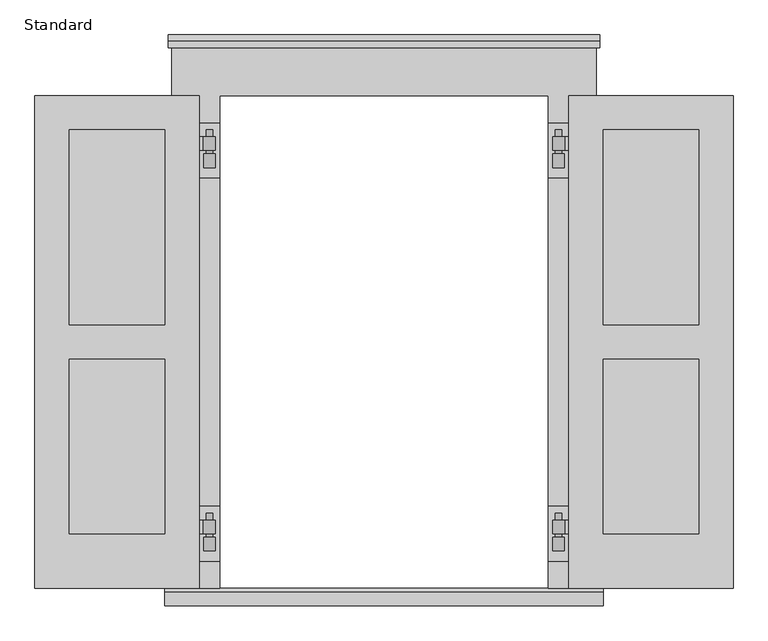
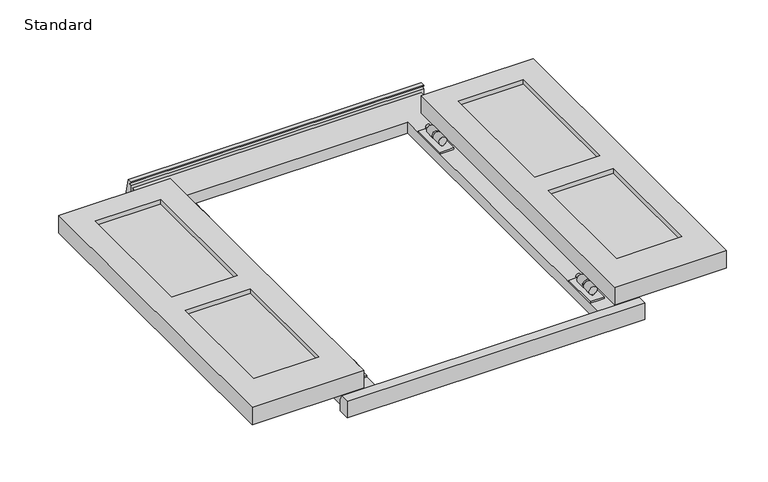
"""IFC4 building model written with IfcOpenShell, lengths in millimetres: proxy geometry, Shutters-Trim-Window-Exterior-Flat-Decorative_Drip_Cap-Cape_Cod : Standard."""

import ifcopenshell
import ifcopenshell.guid

model = None  # the IFC model being written
_history = None  # IfcOwnerHistory: only IFC2X3 demands one
_inside = {}  # id of a spatial element -> (the spatial element, [elements in it])
_under = {}  # id of a project, library or spatial element -> (it, [spatial elements below it])
_declared = {}  # id of a project -> (the project, [libraries it declares])
_typed = {}  # id of a type object -> (the type object, [elements of that type])
_made_of = {}  # id of a material, layer set ... -> (it, [elements and type objects made of it])


def new_model(schema):
    """Start an empty IFC model of exactly this schema.

    Asked for "IFC4X3", IfcOpenShell would pick the latest addendum, in which some entities
    have other attributes; the version numbers below select the first issue.
    IFC2X3 requires an IfcOwnerHistory on every rooted entity: one is made here for all.
    """
    global model, _history
    if schema == "IFC4X3":
        model = ifcopenshell.file(schema_version=(4, 3, 0, 0))
    else:
        model = ifcopenshell.file(schema=schema)
    _inside.clear()
    _under.clear()
    _declared.clear()
    _typed.clear()
    _made_of.clear()
    _history = None
    if model.schema == "IFC2X3":
        org = make("IfcOrganization", Name="unknown")
        user = make(
            "IfcPersonAndOrganization",
            ThePerson=make("IfcPerson", FamilyName="unknown"),
            TheOrganization=org,
        )
        app = make(
            "IfcApplication",
            ApplicationDeveloper=org,
            Version="unknown",
            ApplicationFullName="unknown",
            ApplicationIdentifier="unknown",
        )
        _history = make(
            "IfcOwnerHistory",
            OwningUser=user,
            OwningApplication=app,
            ChangeAction="ADDED",
            CreationDate=0,
        )
    return model


def make(cls, **values):
    """One entity of the class cls with the attributes given. An attribute that is None is left unset."""
    return model.create_entity(
        cls, **{name: value for name, value in values.items() if value is not None}
    )


def rooted(cls, **values):
    """An entity with a GlobalId (a new one), such as an element, a storey or a relation."""
    return make(cls, GlobalId=ifcopenshell.guid.new(), OwnerHistory=_history, **values)


def si_unit(unit_type, name, prefix=None):
    """IfcSIUnit, for example si_unit("LENGTHUNIT", "METRE", prefix="MILLI")."""
    return make("IfcSIUnit", UnitType=unit_type, Prefix=prefix, Name=name)


def assignment(units):
    """IfcUnitAssignment: the units of a project."""
    return None if units is None else make("IfcUnitAssignment", Units=units)


def point(xyz):
    """IfcCartesianPoint."""
    return None if xyz is None else make("IfcCartesianPoint", Coordinates=xyz)


def direction(xyz):
    """IfcDirection."""
    return None if xyz is None else make("IfcDirection", DirectionRatios=xyz)


def frame(location, z_axis=None, x_axis=None):
    """IfcAxis2Placement3D, a coordinate frame: its origin and axes. An axis left out is left unset."""
    return make(
        "IfcAxis2Placement3D",
        Location=point(location),
        Axis=direction(z_axis),
        RefDirection=direction(x_axis),
    )


def frame_2d(location, x_axis=None):
    """IfcAxis2Placement2D, a coordinate frame in the plane: its origin and x axis."""
    return make(
        "IfcAxis2Placement2D", Location=point(location), RefDirection=direction(x_axis)
    )


def origin():
    """The frame at (0, 0, 0) with its axes left unset."""
    return frame((0.0, 0.0, 0.0))


def origin_with_axes():
    """The frame at (0, 0, 0) with the z axis (0, 0, 1) and the x axis (1, 0, 0) written out."""
    return frame((0.0, 0.0, 0.0), z_axis=(0.0, 0.0, 1.0), x_axis=(1.0, 0.0, 0.0))


def place(relative_to, where):
    """IfcLocalPlacement: puts the frame where relative to a parent placement (None: the world)."""
    return make(
        "IfcLocalPlacement", PlacementRelTo=relative_to, RelativePlacement=where
    )


def context(
    kind, dimensions, precision=None, world=None, true_north=None, identifier=None
):
    """IfcGeometricRepresentationContext, for example the 3D "Model" context."""
    return make(
        "IfcGeometricRepresentationContext",
        ContextIdentifier=identifier,
        ContextType=kind,
        CoordinateSpaceDimension=dimensions,
        Precision=precision,
        WorldCoordinateSystem=world,
        TrueNorth=true_north,
    )


def project(units=None, contexts=None):
    """IfcProject with its units and contexts."""
    return rooted(
        "IfcProject",
        Name="project",
        RepresentationContexts=contexts,
        UnitsInContext=assignment(units),
    )


def spatial(cls, under=None, at=None, **own):
    """A site, building, storey or space (cls), placed at a placement, below another one or the project."""
    s = rooted(cls, ObjectPlacement=at, **own)
    if under is not None:
        _under.setdefault(under.id(), (under, []))[1].append(s)
    return s


def polyline(points):
    """IfcPolyline through the points."""
    return make("IfcPolyline", Points=[point(p) for p in points])


def circle_curve(where, radius):
    """IfcCircle in the frame where."""
    return make("IfcCircle", Position=where, Radius=radius)


def trimmed(basis, trim1, trim2, sense, master):
    """IfcTrimmedCurve: the piece of a basis curve between two trims."""
    return make(
        "IfcTrimmedCurve",
        BasisCurve=basis,
        Trim1=trim1,
        Trim2=trim2,
        SenseAgreement=sense,
        MasterRepresentation=master,
    )


def segment(curve, same_sense, transition):
    """IfcCompositeCurveSegment."""
    return make(
        "IfcCompositeCurveSegment",
        Transition=transition,
        SameSense=same_sense,
        ParentCurve=curve,
    )


def composite_curve(segments, self_intersect=None):
    """IfcCompositeCurve: segments joined end to end."""
    return make("IfcCompositeCurve", Segments=segments, SelfIntersect=self_intersect)


def outline(outer, holes=None, kind="AREA"):
    """IfcArbitraryClosedProfileDef: a profile drawn as a closed curve; with holes, ...WithVoids."""
    if holes is None:
        return make("IfcArbitraryClosedProfileDef", ProfileType=kind, OuterCurve=outer)
    return make(
        "IfcArbitraryProfileDefWithVoids",
        ProfileType=kind,
        OuterCurve=outer,
        InnerCurves=holes,
    )


def extrude(swept, where, along, depth):
    """IfcExtrudedAreaSolid: the profile swept, set in the frame where, extruded along a direction by depth."""
    return make(
        "IfcExtrudedAreaSolid",
        SweptArea=swept,
        Position=where,
        ExtrudedDirection=direction(along),
        Depth=depth,
    )


def shape(context_of_items, identifier, shape_type, items):
    """IfcShapeRepresentation: the items that make up one representation, for example the "Body"."""
    return make(
        "IfcShapeRepresentation",
        ContextOfItems=context_of_items,
        RepresentationIdentifier=identifier,
        RepresentationType=shape_type,
        Items=items,
    )


def source(mapping_origin, context_of_items, identifier, shape_type, items):
    """IfcRepresentationMap: a shape defined once, which mapped items show again and again."""
    return make(
        "IfcRepresentationMap",
        MappingOrigin=mapping_origin,
        MappedRepresentation=shape(context_of_items, identifier, shape_type, items),
    )


def transform(
    local_origin,
    x_axis=None,
    y_axis=None,
    z_axis=None,
    scale=None,
    scale2=None,
    scale3=None,
    uniform=True,
):
    """IfcCartesianTransformationOperator3D, or its non-uniform kind. x_axis, y_axis, z_axis: its Axis1, 2, 3."""
    if uniform:
        return make(
            "IfcCartesianTransformationOperator3D",
            Axis1=direction(x_axis),
            Axis2=direction(y_axis),
            LocalOrigin=point(local_origin),
            Scale=scale,
            Axis3=direction(z_axis),
        )
    return make(
        "IfcCartesianTransformationOperator3DnonUniform",
        Axis1=direction(x_axis),
        Axis2=direction(y_axis),
        LocalOrigin=point(local_origin),
        Scale=scale,
        Axis3=direction(z_axis),
        Scale2=scale2,
        Scale3=scale3,
    )


def mapped(mapping_source, mapping_target):
    """IfcMappedItem: shows the shape of a source again, moved by a transform."""
    return make(
        "IfcMappedItem", MappingSource=mapping_source, MappingTarget=mapping_target
    )


def made_of(thing, what):
    """Note that an element or type object is made of a material, layer set ...; save() writes the relation."""
    if what is not None:
        _made_of.setdefault(what.id(), (what, []))[1].append(thing)
    return thing


def element(
    cls,
    number,
    at=None,
    inside=None,
    cuts=None,
    type_object=None,
    material=None,
    context=None,
    identifier="Body",
    shape_type=None,
    held_by="IfcProductDefinitionShape",
    body=None,
    shapes=None,
    **own,
):
    """One element of the class cls, such as IfcWall. Its Tag is "e" and its number.

    at: its placement. inside: the storey or other place that contains it. cuts: it is an
    opening in that element (IfcRelVoidsElement). A single representation is given by context,
    identifier, shape_type and body (its items); several are given by shapes. held_by: the class
    of the entity that holds the representations. save() writes the other relations.
    """
    e = rooted(cls, Tag="e%d" % number, ObjectPlacement=at, **own)
    if body is not None:
        shapes = [shape(context, identifier, shape_type, body)]
    if shapes is not None:
        e.Representation = make(held_by, Representations=shapes)
    if inside is not None:
        _inside.setdefault(inside.id(), (inside, []))[1].append(e)
    if cuts is not None:
        rooted(
            "IfcRelVoidsElement", RelatingBuildingElement=cuts, RelatedOpeningElement=e
        )
    if type_object is not None:
        _typed.setdefault(type_object.id(), (type_object, []))[1].append(e)
    return made_of(e, material)


def aggregate(whole, parts):
    """IfcRelAggregates: a whole, such as a stair, and the parts it consists of."""
    return rooted("IfcRelAggregates", RelatingObject=whole, RelatedObjects=parts)


def save(model, path):
    """Write the relations noted so far, then the file.

    IfcRelAggregates (storeys below a building ...), IfcRelContainedInSpatialStructure (elements
    in a storey), IfcRelDefinesByType, IfcRelAssociatesMaterial and IfcRelDeclares: one each for
    every whole, place, type object, material and project.
    """
    for whole, parts in _under.values():
        aggregate(whole, parts)
    for where, things in _inside.values():
        rooted(
            "IfcRelContainedInSpatialStructure",
            RelatedElements=things,
            RelatingStructure=where,
        )
    for kind, things in _typed.values():
        rooted("IfcRelDefinesByType", RelatedObjects=things, RelatingType=kind)
    for what, things in _made_of.values():
        rooted("IfcRelAssociatesMaterial", RelatedObjects=things, RelatingMaterial=what)
    for by, libraries in _declared.values():
        rooted("IfcRelDeclares", RelatingContext=by, RelatedDefinitions=libraries)
    model.write(path)


def plane_surface(at):
    """IfcPlane: the flat surface through the origin of the frame at, square to its z axis."""
    return make("IfcPlane", Position=at)


def cylinder_surface(at, radius):
    """IfcCylindricalSurface: all points at the distance radius from the z axis of the frame at."""
    return make("IfcCylindricalSurface", Position=at, Radius=radius)


def revolved_surface(curve, axis_point, axis_direction):
    """IfcSurfaceOfRevolution: the curve turned about the line through axis_point along axis_direction."""
    return make(
        "IfcSurfaceOfRevolution",
        SweptCurve=make("IfcArbitraryOpenProfileDef", ProfileType="CURVE", Curve=curve),
        AxisPosition=make("IfcAxis1Placement", Location=point(axis_point), Axis=direction(axis_direction)),
    )


def advanced_brep(points, edges, surfaces, faces):
    """IfcAdvancedBrep: a solid bounded by faces that lie on surfaces and meet in shared edges.

    An edge is (start, end): straight between two places in points (the first is 0);
    or (start, end, curve); or (start, end, curve, False) where it runs against its curve.
    A face is (place in surfaces, loops), or (place, loops, False) where it looks against
    its surface's normal. A loop lists edges by number (the first is 1), with a minus sign
    where the edge is run from its end to its start. The first loop is the outer one.
    """
    corners = [point(p) for p in points]
    vertices = [make("IfcVertexPoint", VertexGeometry=c) for c in corners]
    made = []
    for start, end, *more in edges:
        made.append(
            make(
                "IfcEdgeCurve",
                EdgeStart=vertices[start],
                EdgeEnd=vertices[end],
                EdgeGeometry=more[0] if more else make("IfcPolyline", Points=[corners[start], corners[end]]),
                SameSense=more[1] if len(more) > 1 else True,
            )
        )
    hull = []
    for where, loops, *sense in faces:
        bounds = []
        for j, loop in enumerate(loops):
            ring = [make("IfcOrientedEdge", EdgeElement=made[abs(k) - 1], Orientation=k > 0) for k in loop]
            bounds.append(
                make(
                    "IfcFaceOuterBound" if j == 0 else "IfcFaceBound",
                    Bound=make("IfcEdgeLoop", EdgeList=ring),
                    Orientation=True,
                )
            )
        hull.append(make("IfcAdvancedFace", Bounds=bounds, FaceSurface=surfaces[where], SameSense=sense[0] if sense else True))
    return make("IfcAdvancedBrep", Outer=make("IfcClosedShell", CfsFaces=hull))


def standard_f57f7093(model_context):
    return source(origin(), model_context, "Body", "SolidModel", [
        extrude(outline(polyline([(-647.7, 0.0), (-342.9, 0.0), (-342.9, -914.4), (-647.7, -914.4), (-647.7, 0.0)]), holes=[polyline([(-584.2, -63.5), (-584.2, -425.45), (-406.4, -425.45), (-406.4, -63.5), (-584.2, -63.5)]), polyline([(-406.4, -488.95), (-584.2, -488.95), (-584.2, -812.8), (-406.4, -812.8), (-406.4, -488.95)])]), frame((0.0, 0.0, 44.45), z_axis=(0.0, 0.0, 1.0), x_axis=(1.0, 0.0, 0.0)), (0.0, 0.0, 1.0), 50.8),
        extrude(outline(polyline([(-584.2, -63.5), (-406.4, -63.5), (-406.4, -425.45), (-584.2, -425.45), (-584.2, -63.5)])), frame((0.0, 0.0, 57.15), z_axis=(0.0, 0.0, 1.0), x_axis=(1.0, 0.0, 0.0)), (0.0, 0.0, 1.0), 25.4),
        extrude(outline(polyline([(-406.4, -488.95), (-406.4, -812.8), (-584.2, -812.8), (-584.2, -488.95), (-406.4, -488.95)])), frame((0.0, 0.0, 57.15), z_axis=(0.0, 0.0, 1.0), x_axis=(1.0, 0.0, 0.0)), (0.0, 0.0, 1.0), 25.4),
        extrude(outline(polyline([(647.7, 0.0), (647.7, -914.4), (342.9, -914.4), (342.9, 0.0), (647.7, 0.0)]), holes=[polyline([(584.2, -63.5), (406.4, -63.5), (406.4, -425.45), (584.2, -425.45), (584.2, -63.5)]), polyline([(406.4, -488.95), (406.4, -812.8), (584.2, -812.8), (584.2, -488.95), (406.4, -488.95)])]), frame((0.0, 0.0, 44.45), z_axis=(0.0, 0.0, 1.0), x_axis=(1.0, 0.0, 0.0)), (0.0, 0.0, 1.0), 50.8),
        extrude(outline(polyline([(584.2, -63.5), (584.2, -425.45), (406.4, -425.45), (406.4, -63.5), (584.2, -63.5)])), frame((0.0, 0.0, 57.15), z_axis=(0.0, 0.0, 1.0), x_axis=(1.0, 0.0, 0.0)), (0.0, 0.0, 1.0), 25.4),
        extrude(outline(polyline([(406.4, -488.95), (584.2, -488.95), (584.2, -812.8), (406.4, -812.8), (406.4, -488.95)])), frame((0.0, 0.0, 57.15), z_axis=(0.0, 0.0, 1.0), x_axis=(1.0, 0.0, 0.0)), (0.0, 0.0, 1.0), 25.4),
        extrude(outline(polyline([(-342.9, -762.0), (-304.8, -762.0), (-304.8, -863.6), (-342.9, -863.6), (-342.9, -762.0)])), frame((0.0, 0.0, 31.75), z_axis=(0.0, 0.0, 1.0), x_axis=(1.0, 0.0, 0.0)), (0.0, 0.0, 1.0), 4.7625),
        advanced_brep(
        [(-388.9375, -774.7, 44.45), (-363.474, -774.7, 44.45), (-363.474, -774.7, 39.6875), (-388.9375, -774.7, 39.6875), (-388.9375, -825.5, 39.6875), (-363.474, -825.5, 39.6875), (-363.474, -825.5, 44.45), (-388.9375, -825.5, 44.45), (-363.474, -787.4, 39.6875), (-323.85, -787.4, 39.6875), (-323.85, -812.8, 39.6875), (-363.474, -812.8, 39.6875), (-363.474, -812.8, 44.45), (-323.85, -812.8, 44.45), (-323.85, -787.4, 44.45), (-363.474, -787.4, 44.45), (-330.2, -812.8, 50.8), (-330.2, -787.4, 50.8), (-330.2, -812.8, 46.0375), (-330.2, -787.4, 46.0375), (-334.9625, -812.8, 46.0375), (-334.9625, -787.4, 46.0375), (-334.9625, -812.8, 50.8), (-334.9625, -787.4, 50.8)],
        [
            (0, 1),
            (1, 2),
            (2, 3),
            (3, 0),
            (4, 5),
            (5, 6),
            (6, 7),
            (7, 4),
            (2, 8),
            (8, 9),
            (9, 10),
            (10, 11),
            (11, 5),
            (4, 3),
            (7, 0),
            (6, 12),
            (12, 13),
            (13, 14),
            (14, 15),
            (15, 1),
            (16, 17),
            (17, 14, circle_curve(frame((-323.85, -787.4, 50.8), z_axis=(0.0, 1.0, 0.0), x_axis=(1.0, 0.0, 0.0)), 6.35)),
            (13, 16, circle_curve(frame((-323.85, -812.8, 50.8), z_axis=(0.0, -1.0, 0.0), x_axis=(1.0, 0.0, 0.0)), 6.35)),
            (18, 19),
            (19, 17),
            (16, 18),
            (20, 21),
            (21, 19),
            (18, 20),
            (22, 23),
            (23, 21),
            (20, 22),
            (9, 23, circle_curve(frame((-323.85, -787.4, 50.8), z_axis=(0.0, -1.0, 0.0), x_axis=(1.0, 0.0, 0.0)), 11.1125)),
            (22, 10, circle_curve(frame((-323.85, -812.8, 50.8), z_axis=(0.0, 1.0, 0.0), x_axis=(1.0, 0.0, 0.0)), 11.1125)),
            (12, 11),
            (8, 15),
        ],
        [
            plane_surface(frame((-323.85, -774.7, 50.8), z_axis=(0.0, 1.0, 0.0), x_axis=(0.0, 0.0, 1.0))),
            plane_surface(frame((-323.85, -825.5, 50.8), z_axis=(0.0, -1.0, 0.0), x_axis=(0.0, 0.0, 1.0))),
            plane_surface(frame((-388.9375, -774.7, 39.6875), z_axis=(0.0, 0.0, -1.0), x_axis=(0.0, -1.0, 0.0))),
            plane_surface(frame((-388.9375, -774.7, 44.45), z_axis=(-1.0, 0.0, 0.0), x_axis=(0.0, -1.0, 0.0))),
            plane_surface(frame((-323.85, -774.7, 44.45), z_axis=(0.0, 0.0, 1.0), x_axis=(0.0, -1.0, 0.0))),
            revolved_surface(polyline([(-317.5, -812.8, 50.8), (-317.5, -787.4, 50.8)]), (-323.85, -774.7, 50.8), (0.0, -1.0, 0.0)),
            plane_surface(frame((-330.2, -774.7, 46.0375), z_axis=(1.0, 0.0, 0.0), x_axis=(0.0, -1.0, 0.0))),
            plane_surface(frame((-334.9625, -774.7, 46.0375), z_axis=(0.0, 0.0, -1.0), x_axis=(0.0, -1.0, 0.0))),
            plane_surface(frame((-334.9625, -774.7, 50.8), z_axis=(-1.0, 0.0, 0.0), x_axis=(0.0, -1.0, 0.0))),
            cylinder_surface(frame((-323.85, -774.7, 50.8), z_axis=(0.0, 1.0, 0.0), x_axis=(1.0, 0.0, 0.0)), 11.1125),
            plane_surface(frame((-323.85, -812.8, 50.8), z_axis=(0.0, -1.0, 0.0), x_axis=(0.0, 0.0, 1.0))),
            plane_surface(frame((-363.474, -812.8, 44.45), z_axis=(1.0, 0.0, 0.0), x_axis=(0.0, -1.0, 0.0))),
            plane_surface(frame((-323.85, -787.4, 50.8), z_axis=(0.0, 1.0, 0.0), x_axis=(0.0, 0.0, 1.0))),
            plane_surface(frame((-363.474, -774.7, 44.45), z_axis=(1.0, 0.0, 0.0), x_axis=(0.0, -1.0, 0.0))),
        ],
        [
            (0, [[1, 2, 3, 4]]),
            (1, [[5, 6, 7, 8]]),
            (2, [[-3, 9, 10, 11, 12, 13, -5, 14]]),
            (3, [[-14, -8, 15, -4]]),
            (4, [[-7, 16, 17, 18, 19, 20, -1, -15]]),
            (5, [[21, 22, -18, 23]]),
            (6, [[24, 25, -21, 26]]),
            (7, [[27, 28, -24, 29]]),
            (8, [[30, 31, -27, 32]]),
            (9, [[-11, 33, -30, 34]]),
            (10, [[-12, -34, -32, -29, -26, -23, -17, 35]]),
            (11, [[-16, -6, -13, -35]]),
            (12, [[-19, -22, -25, -28, -31, -33, -10, 36]]),
            (13, [[-9, -2, -20, -36]]),
        ],
    ),
        advanced_brep(
        [(-326.23125, -819.15, 36.5125), (-326.23125, -819.15, 39.945632), (-321.46875, -819.15, 39.945632), (-321.46875, -819.15, 36.5125), (-317.5, -819.15, 50.8), (-330.2, -819.15, 50.8), (-326.23125, -844.55, 36.5125), (-321.46875, -844.55, 36.5125), (-321.46875, -844.55, 39.945632), (-326.23125, -844.55, 39.945632), (-330.2, -774.7, 50.8), (-317.5, -774.7, 50.8)],
        [
            (0, 1),
            (1, 2, circle_curve(frame((-323.85, -819.15, 50.8), z_axis=(0.0, 1.0, 0.0), x_axis=(1.0, 0.0, 0.0)), 11.1125)),
            (2, 3),
            (3, 0),
            (4, 5, circle_curve(frame((-323.85, -819.15, 50.8), z_axis=(0.0, -1.0, 0.0), x_axis=(1.0, 0.0, 0.0)), 6.35)),
            (5, 4, circle_curve(frame((-323.85, -819.15, 50.8), z_axis=(0.0, -1.0, 0.0), x_axis=(1.0, 0.0, 0.0)), 6.35)),
            (6, 7),
            (7, 8),
            (8, 9, circle_curve(frame((-323.85, -844.55, 50.8), z_axis=(0.0, -1.0, 0.0), x_axis=(1.0, 0.0, 0.0)), 11.1125)),
            (9, 6),
            (0, 6),
            (9, 1),
            (3, 7),
            (2, 8),
            (10, 11, circle_curve(frame((-323.85, -774.7, 50.8), z_axis=(0.0, 1.0, 0.0), x_axis=(1.0, 0.0, 0.0)), 6.35)),
            (11, 10, circle_curve(frame((-323.85, -774.7, 50.8), z_axis=(0.0, 1.0, 0.0), x_axis=(1.0, 0.0, 0.0)), 6.35)),
            (11, 4),
            (5, 10),
        ],
        [
            plane_surface(frame((-321.46875, -819.15, 36.5125), z_axis=(0.0, 1.0, 0.0), x_axis=(1.0, 0.0, 6.23955382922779e-12))),
            plane_surface(frame((-321.46875, -844.55, 36.5125), z_axis=(0.0, -1.0, 0.0), x_axis=(-1.0, 0.0, -6.23955382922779e-12))),
            plane_surface(frame((-326.23125, -819.15, 39.945632), z_axis=(-1.0, 0.0, 0.0), x_axis=(0.0, -1.0, 0.0))),
            plane_surface(frame((-326.23125, -819.15, 36.5125), z_axis=(6.23955382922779e-12, 0.0, -1.0), x_axis=(0.0, -1.0, 0.0))),
            plane_surface(frame((-321.46875, -819.15, 36.5125), z_axis=(1.0, 0.0, 0.0), x_axis=(0.0, -1.0, 0.0))),
            cylinder_surface(frame((-323.85, -844.55, 50.8), z_axis=(0.0, 1.0, 0.0), x_axis=(1.0, 0.0, 0.0)), 11.1125),
            plane_surface(frame((-317.5, -774.7, 50.8), z_axis=(0.0, 1.0, 0.0), x_axis=(0.0, 0.0, 1.0))),
            cylinder_surface(frame((-323.85, -844.55, 50.8), z_axis=(0.0, 1.0, 0.0), x_axis=(1.0, 0.0, 0.0)), 6.35),
        ],
        [
            (0, [[1, 2, 3, 4], [5, 6]]),
            (1, [[7, 8, 9, 10]]),
            (2, [[11, -10, 12, -1]]),
            (3, [[13, -7, -11, -4]]),
            (4, [[14, -8, -13, -3]]),
            (5, [[-12, -9, -14, -2]]),
            (6, [[15, 16]]),
            (7, [[17, -6, 18, -16]]),
            (7, [[-18, -5, -17, -15]]),
        ],
    ),
        extrude(outline(polyline([(342.9, -762.0), (342.9, -863.6), (304.8, -863.6), (304.8, -762.0), (342.9, -762.0)])), frame((0.0, 0.0, 31.75), z_axis=(0.0, 0.0, 1.0), x_axis=(1.0, 0.0, 0.0)), (0.0, 0.0, 1.0), 4.7625),
        advanced_brep(
        [(388.9375, -774.7, 44.45), (388.9375, -774.7, 39.6875), (363.474, -774.7, 39.6875), (363.474, -774.7, 44.45), (388.9375, -825.5, 39.6875), (388.9375, -825.5, 44.45), (363.474, -825.5, 44.45), (363.474, -825.5, 39.6875), (363.474, -812.8, 39.6875), (323.85, -812.8, 39.6875), (323.85, -787.4, 39.6875), (363.474, -787.4, 39.6875), (363.474, -787.4, 44.45), (323.85, -787.4, 44.45), (323.85, -812.8, 44.45), (363.474, -812.8, 44.45), (330.2, -812.8, 50.8), (330.2, -787.4, 50.8), (330.2, -812.8, 46.0375), (330.2, -787.4, 46.0375), (334.9625, -812.8, 46.0375), (334.9625, -787.4, 46.0375), (334.9625, -812.8, 50.8), (334.9625, -787.4, 50.8)],
        [
            (0, 1),
            (1, 2),
            (2, 3),
            (3, 0),
            (4, 5),
            (5, 6),
            (6, 7),
            (7, 4),
            (1, 4),
            (7, 8),
            (8, 9),
            (9, 10),
            (10, 11),
            (11, 2),
            (0, 5),
            (3, 12),
            (12, 13),
            (13, 14),
            (14, 15),
            (15, 6),
            (16, 14, circle_curve(frame((323.85, -812.8, 50.8), z_axis=(0.0, -1.0, 0.0), x_axis=(-1.0, 0.0, 0.0)), 6.35)),
            (13, 17, circle_curve(frame((323.85, -787.4, 50.8), z_axis=(0.0, 1.0, 0.0), x_axis=(-1.0, 0.0, 0.0)), 6.35)),
            (17, 16),
            (18, 16),
            (17, 19),
            (19, 18),
            (20, 18),
            (19, 21),
            (21, 20),
            (22, 20),
            (21, 23),
            (23, 22),
            (9, 22, circle_curve(frame((323.85, -812.8, 50.8), z_axis=(0.0, 1.0, 0.0), x_axis=(-1.0, 0.0, 0.0)), 11.1125)),
            (23, 10, circle_curve(frame((323.85, -787.4, 50.8), z_axis=(0.0, -1.0, 0.0), x_axis=(-1.0, 0.0, 0.0)), 11.1125)),
            (8, 15),
            (12, 11),
        ],
        [
            plane_surface(frame((323.85, -774.7, 50.8), z_axis=(0.0, 1.0, 0.0), x_axis=(0.0, 0.0, 1.0))),
            plane_surface(frame((323.85, -825.5, 50.8), z_axis=(0.0, -1.0, 0.0), x_axis=(0.0, 0.0, 1.0))),
            plane_surface(frame((388.9375, -774.7, 39.6875), z_axis=(0.0, 0.0, -1.0), x_axis=(0.0, -1.0, 0.0))),
            plane_surface(frame((388.9375, -774.7, 44.45), z_axis=(1.0, 0.0, 0.0), x_axis=(0.0, -1.0, 0.0))),
            plane_surface(frame((323.85, -774.7, 44.45), z_axis=(0.0, 0.0, 1.0), x_axis=(0.0, -1.0, 0.0))),
            revolved_surface(polyline([(317.5, -812.8, 50.8), (317.5, -787.4, 50.8)]), (323.85, -774.7, 50.8), (0.0, -1.0, 0.0)),
            plane_surface(frame((330.2, -774.7, 46.0375), z_axis=(-1.0, 0.0, 0.0), x_axis=(0.0, -1.0, 0.0))),
            plane_surface(frame((334.9625, -774.7, 46.0375), z_axis=(0.0, 0.0, -1.0), x_axis=(0.0, -1.0, 0.0))),
            plane_surface(frame((334.9625, -774.7, 50.8), z_axis=(1.0, 0.0, 0.0), x_axis=(0.0, -1.0, 0.0))),
            cylinder_surface(frame((323.85, -774.7, 50.8), z_axis=(0.0, 1.0, 0.0), x_axis=(-1.0, 0.0, 0.0)), 11.1125),
            plane_surface(frame((323.85, -812.8, 50.8), z_axis=(0.0, -1.0, 0.0), x_axis=(0.0, 0.0, 1.0))),
            plane_surface(frame((363.474, -812.8, 44.45), z_axis=(-1.0, 0.0, 0.0), x_axis=(0.0, -1.0, 0.0))),
            plane_surface(frame((323.85, -787.4, 50.8), z_axis=(0.0, 1.0, 0.0), x_axis=(0.0, 0.0, 1.0))),
            plane_surface(frame((363.474, -774.7, 44.45), z_axis=(-1.0, 0.0, 0.0), x_axis=(0.0, -1.0, 0.0))),
        ],
        [
            (0, [[1, 2, 3, 4]]),
            (1, [[5, 6, 7, 8]]),
            (2, [[9, -8, 10, 11, 12, 13, 14, -2]]),
            (3, [[-1, 15, -5, -9]]),
            (4, [[-15, -4, 16, 17, 18, 19, 20, -6]]),
            (5, [[21, -18, 22, 23]]),
            (6, [[24, -23, 25, 26]]),
            (7, [[27, -26, 28, 29]]),
            (8, [[30, -29, 31, 32]]),
            (9, [[33, -32, 34, -12]]),
            (10, [[35, -19, -21, -24, -27, -30, -33, -11]]),
            (11, [[-35, -10, -7, -20]]),
            (12, [[36, -13, -34, -31, -28, -25, -22, -17]]),
            (13, [[-36, -16, -3, -14]]),
        ],
    ),
        advanced_brep(
        [(326.23125, -819.15, 36.5125), (321.46875, -819.15, 36.5125), (321.46875, -819.15, 39.945632), (326.23125, -819.15, 39.945632), (317.5, -819.15, 50.8), (330.2, -819.15, 50.8), (326.23125, -844.55, 36.5125), (326.23125, -844.55, 39.945632), (321.46875, -844.55, 39.945632), (321.46875, -844.55, 36.5125), (330.2, -774.7, 50.8), (317.5, -774.7, 50.8)],
        [
            (0, 1),
            (1, 2),
            (2, 3, circle_curve(frame((323.85, -819.15, 50.8), z_axis=(0.0, 1.0, 0.0), x_axis=(-1.0, 0.0, 0.0)), 11.1125)),
            (3, 0),
            (4, 5, circle_curve(frame((323.85, -819.15, 50.8), z_axis=(0.0, -1.0, 0.0), x_axis=(-1.0, 0.0, 0.0)), 6.35)),
            (5, 4, circle_curve(frame((323.85, -819.15, 50.8), z_axis=(0.0, -1.0, 0.0), x_axis=(-1.0, 0.0, 0.0)), 6.35)),
            (6, 7),
            (7, 8, circle_curve(frame((323.85, -844.55, 50.8), z_axis=(0.0, -1.0, 0.0), x_axis=(-1.0, 0.0, 0.0)), 11.1125)),
            (8, 9),
            (9, 6),
            (3, 7),
            (6, 0),
            (9, 1),
            (8, 2),
            (10, 11, circle_curve(frame((323.85, -774.7, 50.8), z_axis=(0.0, 1.0, 0.0), x_axis=(-1.0, 0.0, 0.0)), 6.35)),
            (11, 10, circle_curve(frame((323.85, -774.7, 50.8), z_axis=(0.0, 1.0, 0.0), x_axis=(-1.0, 0.0, 0.0)), 6.35)),
            (10, 5),
            (4, 11),
        ],
        [
            plane_surface(frame((321.46875, -819.15, 36.5125), z_axis=(0.0, 1.0, 0.0), x_axis=(-1.0, 0.0, 6.246014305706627e-12))),
            plane_surface(frame((321.46875, -844.55, 36.5125), z_axis=(0.0, -1.0, 0.0), x_axis=(1.0, 0.0, -6.246014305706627e-12))),
            plane_surface(frame((326.23125, -819.15, 39.945632), z_axis=(1.0, 0.0, 0.0), x_axis=(0.0, -1.0, 0.0))),
            plane_surface(frame((326.23125, -819.15, 36.5125), z_axis=(-6.246014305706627e-12, 0.0, -1.0), x_axis=(0.0, -1.0, 0.0))),
            plane_surface(frame((321.46875, -819.15, 36.5125), z_axis=(-1.0, 0.0, 0.0), x_axis=(0.0, -1.0, 0.0))),
            cylinder_surface(frame((323.85, -844.55, 50.8), z_axis=(0.0, 1.0, 0.0), x_axis=(-1.0, 0.0, 0.0)), 11.1125),
            plane_surface(frame((317.5, -774.7, 50.8), z_axis=(0.0, 1.0, 0.0), x_axis=(0.0, 0.0, 1.0))),
            cylinder_surface(frame((323.85, -844.55, 50.8), z_axis=(0.0, 1.0, 0.0), x_axis=(-1.0, 0.0, 0.0)), 6.35),
        ],
        [
            (0, [[1, 2, 3, 4], [5, 6]]),
            (1, [[7, 8, 9, 10]]),
            (2, [[-4, 11, -7, 12]]),
            (3, [[-1, -12, -10, 13]]),
            (4, [[-2, -13, -9, 14]]),
            (5, [[-3, -14, -8, -11]]),
            (6, [[15, 16]]),
            (7, [[-15, 17, -5, 18]]),
            (7, [[-16, -18, -6, -17]]),
        ],
    ),
        extrude(outline(polyline([(342.9, -50.8), (342.9, -152.4), (304.8, -152.4), (304.8, -50.8), (342.9, -50.8)])), frame((0.0, 0.0, 31.75), z_axis=(0.0, 0.0, 1.0), x_axis=(1.0, 0.0, 0.0)), (0.0, 0.0, 1.0), 4.7625),
        advanced_brep(
        [(388.9375, -63.5, 44.45), (388.9375, -63.5, 39.6875), (363.474, -63.5, 39.6875), (363.474, -63.5, 44.45), (388.9375, -114.3, 39.6875), (388.9375, -114.3, 44.45), (363.474, -114.3, 44.45), (363.474, -114.3, 39.6875), (363.474, -101.6, 39.6875), (323.85, -101.6, 39.6875), (323.85, -76.2, 39.6875), (363.474, -76.2, 39.6875), (363.474, -76.2, 44.45), (323.85, -76.2, 44.45), (323.85, -101.6, 44.45), (363.474, -101.6, 44.45), (330.2, -101.6, 50.8), (330.2, -76.2, 50.8), (330.2, -101.6, 46.0375), (330.2, -76.2, 46.0375), (334.9625, -101.6, 46.0375), (334.9625, -76.2, 46.0375), (334.9625, -101.6, 50.8), (334.9625, -76.2, 50.8)],
        [
            (0, 1),
            (1, 2),
            (2, 3),
            (3, 0),
            (4, 5),
            (5, 6),
            (6, 7),
            (7, 4),
            (1, 4),
            (7, 8),
            (8, 9),
            (9, 10),
            (10, 11),
            (11, 2),
            (0, 5),
            (3, 12),
            (12, 13),
            (13, 14),
            (14, 15),
            (15, 6),
            (16, 14, circle_curve(frame((323.85, -101.6, 50.8), z_axis=(0.0, -1.0, 0.0), x_axis=(-1.0, 0.0, 0.0)), 6.35)),
            (13, 17, circle_curve(frame((323.85, -76.2, 50.8), z_axis=(0.0, 1.0, 0.0), x_axis=(-1.0, 0.0, 0.0)), 6.35)),
            (17, 16),
            (18, 16),
            (17, 19),
            (19, 18),
            (20, 18),
            (19, 21),
            (21, 20),
            (22, 20),
            (21, 23),
            (23, 22),
            (9, 22, circle_curve(frame((323.85, -101.6, 50.8), z_axis=(0.0, 1.0, 0.0), x_axis=(-1.0, 0.0, 0.0)), 11.1125)),
            (23, 10, circle_curve(frame((323.85, -76.2, 50.8), z_axis=(0.0, -1.0, 0.0), x_axis=(-1.0, 0.0, 0.0)), 11.1125)),
            (8, 15),
            (12, 11),
        ],
        [
            plane_surface(frame((323.85, -63.5, 50.8), z_axis=(0.0, 1.0, 0.0), x_axis=(0.0, 0.0, 1.0))),
            plane_surface(frame((323.85, -114.3, 50.8), z_axis=(0.0, -1.0, 0.0), x_axis=(0.0, 0.0, 1.0))),
            plane_surface(frame((388.9375, -63.5, 39.6875), z_axis=(0.0, 0.0, -1.0), x_axis=(0.0, -1.0, 0.0))),
            plane_surface(frame((388.9375, -63.5, 44.45), z_axis=(1.0, 0.0, 0.0), x_axis=(0.0, -1.0, 0.0))),
            plane_surface(frame((323.85, -63.5, 44.45), z_axis=(0.0, 0.0, 1.0), x_axis=(0.0, -1.0, 0.0))),
            revolved_surface(polyline([(317.5, -101.6, 50.8), (317.5, -76.2, 50.8)]), (323.85, -63.5, 50.8), (0.0, -1.0, 0.0)),
            plane_surface(frame((330.2, -63.5, 46.0375), z_axis=(-1.0, 0.0, 0.0), x_axis=(0.0, -1.0, 0.0))),
            plane_surface(frame((334.9625, -63.5, 46.0375), z_axis=(0.0, 0.0, -1.0), x_axis=(0.0, -1.0, 0.0))),
            plane_surface(frame((334.9625, -63.5, 50.8), z_axis=(1.0, 0.0, 0.0), x_axis=(0.0, -1.0, 0.0))),
            cylinder_surface(frame((323.85, -63.5, 50.8), z_axis=(0.0, 1.0, 0.0), x_axis=(-1.0, 0.0, 0.0)), 11.1125),
            plane_surface(frame((323.85, -101.6, 50.8), z_axis=(0.0, -1.0, 0.0), x_axis=(0.0, 0.0, 1.0))),
            plane_surface(frame((363.474, -101.6, 44.45), z_axis=(-1.0, 0.0, 0.0), x_axis=(0.0, -1.0, 0.0))),
            plane_surface(frame((323.85, -76.2, 50.8), z_axis=(0.0, 1.0, 0.0), x_axis=(0.0, 0.0, 1.0))),
            plane_surface(frame((363.474, -63.5, 44.45), z_axis=(-1.0, 0.0, 0.0), x_axis=(0.0, -1.0, 0.0))),
        ],
        [
            (0, [[1, 2, 3, 4]]),
            (1, [[5, 6, 7, 8]]),
            (2, [[9, -8, 10, 11, 12, 13, 14, -2]]),
            (3, [[-1, 15, -5, -9]]),
            (4, [[-15, -4, 16, 17, 18, 19, 20, -6]]),
            (5, [[21, -18, 22, 23]]),
            (6, [[24, -23, 25, 26]]),
            (7, [[27, -26, 28, 29]]),
            (8, [[30, -29, 31, 32]]),
            (9, [[33, -32, 34, -12]]),
            (10, [[35, -19, -21, -24, -27, -30, -33, -11]]),
            (11, [[-35, -10, -7, -20]]),
            (12, [[36, -13, -34, -31, -28, -25, -22, -17]]),
            (13, [[-36, -16, -3, -14]]),
        ],
    ),
        advanced_brep(
        [(326.23125, -107.95, 36.5125), (321.46875, -107.95, 36.5125), (321.46875, -107.95, 39.945632), (326.23125, -107.95, 39.945632), (317.5, -107.95, 50.8), (330.2, -107.95, 50.8), (326.23125, -133.35, 36.5125), (326.23125, -133.35, 39.945632), (321.46875, -133.35, 39.945632), (321.46875, -133.35, 36.5125), (330.2, -63.5, 50.8), (317.5, -63.5, 50.8)],
        [
            (0, 1),
            (1, 2),
            (2, 3, circle_curve(frame((323.85, -107.95, 50.8), z_axis=(0.0, 1.0, 0.0), x_axis=(-1.0, 0.0, 0.0)), 11.1125)),
            (3, 0),
            (4, 5, circle_curve(frame((323.85, -107.95, 50.8), z_axis=(0.0, -1.0, 0.0), x_axis=(-1.0, 0.0, 0.0)), 6.35)),
            (5, 4, circle_curve(frame((323.85, -107.95, 50.8), z_axis=(0.0, -1.0, 0.0), x_axis=(-1.0, 0.0, 0.0)), 6.35)),
            (6, 7),
            (7, 8, circle_curve(frame((323.85, -133.35, 50.8), z_axis=(0.0, -1.0, 0.0), x_axis=(-1.0, 0.0, 0.0)), 11.1125)),
            (8, 9),
            (9, 6),
            (3, 7),
            (6, 0),
            (9, 1),
            (8, 2),
            (10, 11, circle_curve(frame((323.85, -63.5, 50.8), z_axis=(0.0, 1.0, 0.0), x_axis=(-1.0, 0.0, 0.0)), 6.35)),
            (11, 10, circle_curve(frame((323.85, -63.5, 50.8), z_axis=(0.0, 1.0, 0.0), x_axis=(-1.0, 0.0, 0.0)), 6.35)),
            (10, 5),
            (4, 11),
        ],
        [
            plane_surface(frame((321.46875, -107.95, 36.5125), z_axis=(0.0, 1.0, 0.0), x_axis=(-1.0, 0.0, 6.246014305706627e-12))),
            plane_surface(frame((321.46875, -133.35, 36.5125), z_axis=(0.0, -1.0, 0.0), x_axis=(1.0, 0.0, -6.246014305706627e-12))),
            plane_surface(frame((326.23125, -107.95, 39.945632), z_axis=(1.0, 0.0, 0.0), x_axis=(0.0, -1.0, 0.0))),
            plane_surface(frame((326.23125, -107.95, 36.5125), z_axis=(-6.246014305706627e-12, 0.0, -1.0), x_axis=(0.0, -1.0, 0.0))),
            plane_surface(frame((321.46875, -107.95, 36.5125), z_axis=(-1.0, 0.0, 0.0), x_axis=(0.0, -1.0, 0.0))),
            cylinder_surface(frame((323.85, -133.35, 50.8), z_axis=(0.0, 1.0, 0.0), x_axis=(-1.0, 0.0, 0.0)), 11.1125),
            plane_surface(frame((317.5, -63.5, 50.8), z_axis=(0.0, 1.0, 0.0), x_axis=(0.0, 0.0, 1.0))),
            cylinder_surface(frame((323.85, -133.35, 50.8), z_axis=(0.0, 1.0, 0.0), x_axis=(-1.0, 0.0, 0.0)), 6.35),
        ],
        [
            (0, [[1, 2, 3, 4], [5, 6]]),
            (1, [[7, 8, 9, 10]]),
            (2, [[-4, 11, -7, 12]]),
            (3, [[-1, -12, -10, 13]]),
            (4, [[-2, -13, -9, 14]]),
            (5, [[-3, -14, -8, -11]]),
            (6, [[15, 16]]),
            (7, [[-15, 17, -5, 18]]),
            (7, [[-16, -18, -6, -17]]),
        ],
    ),
        extrude(outline(polyline([(-342.9, -50.8), (-304.8, -50.8), (-304.8, -152.4), (-342.9, -152.4), (-342.9, -50.8)])), frame((0.0, 0.0, 31.75), z_axis=(0.0, 0.0, 1.0), x_axis=(1.0, 0.0, 0.0)), (0.0, 0.0, 1.0), 4.7625),
        advanced_brep(
        [(-388.9375, -63.5, 44.45), (-363.474, -63.5, 44.45), (-363.474, -63.5, 39.6875), (-388.9375, -63.5, 39.6875), (-388.9375, -114.3, 39.6875), (-363.474, -114.3, 39.6875), (-363.474, -114.3, 44.45), (-388.9375, -114.3, 44.45), (-363.474, -76.2, 39.6875), (-323.85, -76.2, 39.6875), (-323.85, -101.6, 39.6875), (-363.474, -101.6, 39.6875), (-363.474, -101.6, 44.45), (-323.85, -101.6, 44.45), (-323.85, -76.2, 44.45), (-363.474, -76.2, 44.45), (-330.2, -101.6, 50.8), (-330.2, -76.2, 50.8), (-330.2, -101.6, 46.0375), (-330.2, -76.2, 46.0375), (-334.9625, -101.6, 46.0375), (-334.9625, -76.2, 46.0375), (-334.9625, -101.6, 50.8), (-334.9625, -76.2, 50.8)],
        [
            (0, 1),
            (1, 2),
            (2, 3),
            (3, 0),
            (4, 5),
            (5, 6),
            (6, 7),
            (7, 4),
            (2, 8),
            (8, 9),
            (9, 10),
            (10, 11),
            (11, 5),
            (4, 3),
            (7, 0),
            (6, 12),
            (12, 13),
            (13, 14),
            (14, 15),
            (15, 1),
            (16, 17),
            (17, 14, circle_curve(frame((-323.85, -76.2, 50.8), z_axis=(0.0, 1.0, 0.0), x_axis=(1.0, 0.0, 0.0)), 6.35)),
            (13, 16, circle_curve(frame((-323.85, -101.6, 50.8), z_axis=(0.0, -1.0, 0.0), x_axis=(1.0, 0.0, 0.0)), 6.35)),
            (18, 19),
            (19, 17),
            (16, 18),
            (20, 21),
            (21, 19),
            (18, 20),
            (22, 23),
            (23, 21),
            (20, 22),
            (9, 23, circle_curve(frame((-323.85, -76.2, 50.8), z_axis=(0.0, -1.0, 0.0), x_axis=(1.0, 0.0, 0.0)), 11.1125)),
            (22, 10, circle_curve(frame((-323.85, -101.6, 50.8), z_axis=(0.0, 1.0, 0.0), x_axis=(1.0, 0.0, 0.0)), 11.1125)),
            (12, 11),
            (8, 15),
        ],
        [
            plane_surface(frame((-323.85, -63.5, 50.8), z_axis=(0.0, 1.0, 0.0), x_axis=(0.0, 0.0, 1.0))),
            plane_surface(frame((-323.85, -114.3, 50.8), z_axis=(0.0, -1.0, 0.0), x_axis=(0.0, 0.0, 1.0))),
            plane_surface(frame((-388.9375, -63.5, 39.6875), z_axis=(0.0, 0.0, -1.0), x_axis=(0.0, -1.0, 0.0))),
            plane_surface(frame((-388.9375, -63.5, 44.45), z_axis=(-1.0, 0.0, 0.0), x_axis=(0.0, -1.0, 0.0))),
            plane_surface(frame((-323.85, -63.5, 44.45), z_axis=(0.0, 0.0, 1.0), x_axis=(0.0, -1.0, 0.0))),
            revolved_surface(polyline([(-317.5, -101.6, 50.8), (-317.5, -76.2, 50.8)]), (-323.85, -63.5, 50.8), (0.0, -1.0, 0.0)),
            plane_surface(frame((-330.2, -63.5, 46.0375), z_axis=(1.0, 0.0, 0.0), x_axis=(0.0, -1.0, 0.0))),
            plane_surface(frame((-334.9625, -63.5, 46.0375), z_axis=(0.0, 0.0, -1.0), x_axis=(0.0, -1.0, 0.0))),
            plane_surface(frame((-334.9625, -63.5, 50.8), z_axis=(-1.0, 0.0, 0.0), x_axis=(0.0, -1.0, 0.0))),
            cylinder_surface(frame((-323.85, -63.5, 50.8), z_axis=(0.0, 1.0, 0.0), x_axis=(1.0, 0.0, 0.0)), 11.1125),
            plane_surface(frame((-323.85, -101.6, 50.8), z_axis=(0.0, -1.0, 0.0), x_axis=(0.0, 0.0, 1.0))),
            plane_surface(frame((-363.474, -101.6, 44.45), z_axis=(1.0, 0.0, 0.0), x_axis=(0.0, -1.0, 0.0))),
            plane_surface(frame((-323.85, -76.2, 50.8), z_axis=(0.0, 1.0, 0.0), x_axis=(0.0, 0.0, 1.0))),
            plane_surface(frame((-363.474, -63.5, 44.45), z_axis=(1.0, 0.0, 0.0), x_axis=(0.0, -1.0, 0.0))),
        ],
        [
            (0, [[1, 2, 3, 4]]),
            (1, [[5, 6, 7, 8]]),
            (2, [[-3, 9, 10, 11, 12, 13, -5, 14]]),
            (3, [[-14, -8, 15, -4]]),
            (4, [[-7, 16, 17, 18, 19, 20, -1, -15]]),
            (5, [[21, 22, -18, 23]]),
            (6, [[24, 25, -21, 26]]),
            (7, [[27, 28, -24, 29]]),
            (8, [[30, 31, -27, 32]]),
            (9, [[-11, 33, -30, 34]]),
            (10, [[-12, -34, -32, -29, -26, -23, -17, 35]]),
            (11, [[-16, -6, -13, -35]]),
            (12, [[-19, -22, -25, -28, -31, -33, -10, 36]]),
            (13, [[-9, -2, -20, -36]]),
        ],
    ),
        advanced_brep(
        [(-326.23125, -107.95, 36.5125), (-326.23125, -107.95, 39.945632), (-321.46875, -107.95, 39.945632), (-321.46875, -107.95, 36.5125), (-317.5, -107.95, 50.8), (-330.2, -107.95, 50.8), (-326.23125, -133.35, 36.5125), (-321.46875, -133.35, 36.5125), (-321.46875, -133.35, 39.945632), (-326.23125, -133.35, 39.945632), (-330.2, -63.5, 50.8), (-317.5, -63.5, 50.8)],
        [
            (0, 1),
            (1, 2, circle_curve(frame((-323.85, -107.95, 50.8), z_axis=(0.0, 1.0, 0.0), x_axis=(1.0, 0.0, 0.0)), 11.1125)),
            (2, 3),
            (3, 0),
            (4, 5, circle_curve(frame((-323.85, -107.95, 50.8), z_axis=(0.0, -1.0, 0.0), x_axis=(1.0, 0.0, 0.0)), 6.35)),
            (5, 4, circle_curve(frame((-323.85, -107.95, 50.8), z_axis=(0.0, -1.0, 0.0), x_axis=(1.0, 0.0, 0.0)), 6.35)),
            (6, 7),
            (7, 8),
            (8, 9, circle_curve(frame((-323.85, -133.35, 50.8), z_axis=(0.0, -1.0, 0.0), x_axis=(1.0, 0.0, 0.0)), 11.1125)),
            (9, 6),
            (0, 6),
            (9, 1),
            (3, 7),
            (2, 8),
            (10, 11, circle_curve(frame((-323.85, -63.5, 50.8), z_axis=(0.0, 1.0, 0.0), x_axis=(1.0, 0.0, 0.0)), 6.35)),
            (11, 10, circle_curve(frame((-323.85, -63.5, 50.8), z_axis=(0.0, 1.0, 0.0), x_axis=(1.0, 0.0, 0.0)), 6.35)),
            (11, 4),
            (5, 10),
        ],
        [
            plane_surface(frame((-321.46875, -107.95, 36.5125), z_axis=(0.0, 1.0, 0.0), x_axis=(1.0, 0.0, 6.23955382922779e-12))),
            plane_surface(frame((-321.46875, -133.35, 36.5125), z_axis=(0.0, -1.0, 0.0), x_axis=(-1.0, 0.0, -6.23955382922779e-12))),
            plane_surface(frame((-326.23125, -107.95, 39.945632), z_axis=(-1.0, 0.0, 0.0), x_axis=(0.0, -1.0, 0.0))),
            plane_surface(frame((-326.23125, -107.95, 36.5125), z_axis=(6.23955382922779e-12, 0.0, -1.0), x_axis=(0.0, -1.0, 0.0))),
            plane_surface(frame((-321.46875, -107.95, 36.5125), z_axis=(1.0, 0.0, 0.0), x_axis=(0.0, -1.0, 0.0))),
            cylinder_surface(frame((-323.85, -133.35, 50.8), z_axis=(0.0, 1.0, 0.0), x_axis=(1.0, 0.0, 0.0)), 11.1125),
            plane_surface(frame((-317.5, -63.5, 50.8), z_axis=(0.0, 1.0, 0.0), x_axis=(0.0, 0.0, 1.0))),
            cylinder_surface(frame((-323.85, -133.35, 50.8), z_axis=(0.0, 1.0, 0.0), x_axis=(1.0, 0.0, 0.0)), 6.35),
        ],
        [
            (0, [[1, 2, 3, 4], [5, 6]]),
            (1, [[7, 8, 9, 10]]),
            (2, [[11, -10, 12, -1]]),
            (3, [[13, -7, -11, -4]]),
            (4, [[14, -8, -13, -3]]),
            (5, [[-12, -9, -14, -2]]),
            (6, [[15, 16]]),
            (7, [[17, -6, 18, -16]]),
            (7, [[-18, -5, -17, -15]]),
        ],
    ),
        extrude(outline(polyline([(-393.7, 88.9), (393.7, 88.9), (393.7, -914.4), (304.8, -914.4), (304.8, 0.0), (-304.8, 0.0), (-304.8, -914.4), (-393.7, -914.4), (-393.7, 88.9)])), origin_with_axes(), (0.0, 0.0, 1.0), 31.75),
        extrude(outline(polyline([(-914.4, 31.75), (-914.4, 0.0), (-946.15, 0.0), (-946.15, 47.625), (-920.1780275, 47.625), (-914.4, 31.75)])), frame((-406.4, 0.0, 0.0), z_axis=(1.0, 0.0, 0.0), x_axis=(0.0, 1.0, 0.0)), (0.0, 0.0, 1.0), 812.8),
        extrude(outline(composite_curve([segment(polyline([(88.9, 0.0), (88.9, 41.275)]), True, "CONTINUOUS"), segment(trimmed(circle_curve(frame_2d((88.9, 44.45)), 3.175), [point((88.9, 41.275))], [point((88.9, 47.625))], True, "CARTESIAN"), True, "CONTINUOUS"), segment(polyline([(88.9, 47.625), (88.9, 50.8), (100.80625, 50.8), (112.7125, 0.0), (88.9, 0.0)]), True, "CONTINUOUS")], self_intersect=False)), frame((-400.05, 0.0, 0.0), z_axis=(1.0, 0.0, 0.0), x_axis=(0.0, 1.0, 0.0)), (0.0, 0.0, 1.0), 800.1),
    ])


if __name__ == "__main__":
    model = new_model("IFC4")
    model_context = context("Model", 3, world=origin())
    ifc_project = project(units=[si_unit("LENGTHUNIT", "METRE", prefix="MILLI")], contexts=[model_context])
    site = spatial("IfcSite", under=ifc_project)
    building = spatial("IfcBuilding", under=site)
    placement = place(None, origin())
    standard_shape = standard_f57f7093(model_context)
    element("IfcBuildingElementProxy", 1, Name="Shutters-Trim-Window-Exterior-Flat-Decorative_Drip_Cap-Cape_Cod : Standard", ObjectType="Shutters-Trim-Window-Exterior-Flat-Decorative_Drip_Cap-Cape_Cod : Standard", at=placement, inside=building, context=model_context, shape_type="MappedRepresentation", body=[
        mapped(standard_shape, transform((0.0, 0.0, 0.0), x_axis=(1.0, 0.0, 0.0), y_axis=(0.0, 1.0, 0.0), z_axis=(0.0, 0.0, 1.0))),
    ])
    save(model, "model.ifc")
